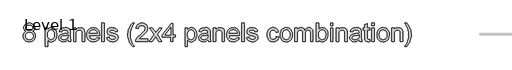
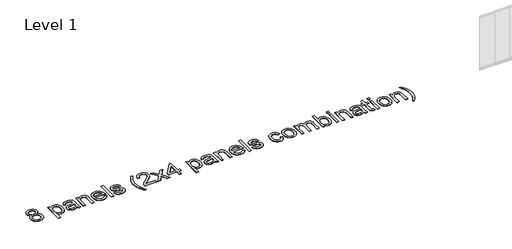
# One storey, part 24 of 69: 1 proxy.
"""IFC4 building model written with IfcOpenShell, lengths in millimetres."""

from ifc_helpers import new_model, si_unit, origin, origin_with_axes, place, context, project, spatial, polyline, outline, extrude, element, save

model = new_model("IFC4")

# Units and contexts
model_context = context("Model", 3, world=origin())
ifc_project = project(units=[si_unit("LENGTHUNIT", "METRE", prefix="MILLI")], contexts=[model_context])

# Site, building, storey
site = spatial("IfcSite", under=ifc_project)
building = spatial("IfcBuilding", under=site)
storey = spatial("IfcBuildingStorey", under=building, Name="Level 1", Elevation=0.0)

# Proxy
placement = place(None, origin())
element("IfcBuildingElementProxy", 1, Name="800mm Arial", ObjectType="800mm Arial", at=placement, inside=storey, context=model_context, shape_type="SweptSolid", body=[
    extrude(outline(polyline([(218665.4723823, -57815.9110834), (218636.728494, -57803.9085431), (218611.9732547, -57789.5640438), (218591.2066644, -57772.8775853), (218574.4287232, -57753.8491678), (218561.4930586, -57732.6617568), (218552.2532982, -57709.4983178), (218546.7094419, -57684.3588508), (218544.8614898, -57657.2433559), (218548.886732, -57616.4908284), (218560.9624585, -57579.1292625), (218581.0886693, -57545.1586582), (218609.2653645, -57514.5790154), (218644.1385989, -57489.3053737), (218684.3544274, -57471.2527725), (218729.9128501, -57460.4212118), (218780.8138669, -57456.8106915), (218831.9588378, -57460.5065957), (218877.8587961, -57471.5943082), (218918.513742, -57490.0738291), (218953.9236753, -57515.9451582), (218982.612674, -57547.1224885), (219003.1048159, -57581.5200124), (219015.4001011, -57619.1377301), (219019.4985295, -57659.9756415), (219017.6749728, -57686.1336167), (219012.2043028, -57710.5473203), (219003.0865194, -57733.2167523), (218990.3216227, -57754.1419127), (218973.848624, -57773.0422543), (218953.606535, -57789.63723), (218929.5953556, -57803.9268397), (218901.8150859, -57815.9110834), (218934.6574026, -57829.8835528), (218963.315907, -57847.6007171), (218987.7905992, -57869.0625765), (219008.081479, -57894.2691308), (219024.0055809, -57922.6592858), (219035.3799395, -57953.671947), (219042.2045546, -57987.3071145), (219044.4794263, -58023.5647882), (219039.966276, -58073.4046048), (219026.4268251, -58119.0972022), (219003.8610736, -58160.6425805), (218972.2690214, -58198.0407395), (218933.3095564, -58228.9497202), (218888.641566, -58251.0275636), (218838.2650505, -58264.2742696), (218782.1800097, -58268.6898383), (218726.0949688, -58264.2559731), (218675.7184533, -58250.9543774), (218631.050463, -58228.7850512), (218592.0909979, -58197.7479946), (218560.4989458, -58160.0875849), (218537.9331942, -58118.0481997), (218524.3937433, -58071.629839), (218519.880593, -58020.8325026), (218522.2469475, -57982.9220401), (218529.346011, -57948.2317712), (218541.1777834, -57916.7616961), (218557.7422648, -57888.5118148), (218578.673524, -57863.9944307), (218603.60563, -57843.7218474), (218632.5385828, -57827.694065), (218665.4723823, -57815.9110834)]), holes=[polyline([(218644.7850771, -57660.1708047), (218646.9989603, -57683.078092), (218653.6406099, -57703.7897926), (218664.7100259, -57722.3059065), (218680.2072082, -57738.6264338), (218699.9369936, -57751.9463261), (218723.704219, -57761.4605348), (218751.5088841, -57767.1690601), (218783.3509892, -57769.0719018), (218814.4063424, -57767.1812578), (218841.6072212, -57761.5093256), (218864.9536258, -57752.0561054), (218884.445556, -57738.8215971), (218899.8146625, -57722.8426055), (218910.7925957, -57705.1559353), (218917.3793556, -57685.7615867), (218919.5749422, -57664.6595596), (218917.3061693, -57642.7341875), (218910.4998508, -57622.6262733), (218899.1559865, -57604.3358168), (218883.2745765, -57587.8628182), (218863.3435289, -57574.2440822), (218839.8507519, -57564.5164137), (218812.7962455, -57558.6798125), (218782.1800097, -57556.7342788), (218751.3259186, -57558.6371206), (218724.1433363, -57564.3456458), (218700.6322627, -57573.8598546), (218680.792698, -57587.1797468), (218665.0393638, -57603.1587385), (218653.7869823, -57620.6502453), (218647.0355534, -57639.6542674), (218644.7850771, -57660.1708047)]), polyline([(218619.8041803, -58017.319564), (218623.9757949, -58055.5471669), (218636.4906387, -58092.5549994), (218646.437866, -58109.7232671), (218659.5930892, -58124.8301229), (218675.9563085, -58137.8755668), (218695.5275238, -58148.8595988), (218738.5610219, -58163.789588), (218782.9606627, -58168.766251), (218819.0902605, -58166.1498436), (218850.9750576, -58158.3006214), (218878.6150538, -58145.2185843), (218902.0102491, -58126.9037325), (218920.6239447, -58104.5514408), (218933.9194415, -58079.3570841), (218941.8967396, -58051.3206626), (218944.555839, -58020.4421761), (218941.8113557, -57989.0696826), (218933.5779058, -57960.5270564), (218919.8554894, -57934.8142974), (218900.6441063, -57911.9314055), (218876.6146304, -57893.1469421), (218848.4379352, -57879.7294682), (218816.1140209, -57871.6789839), (218779.6428873, -57868.9954891), (218744.0438896, -57871.6423908), (218712.5799133, -57879.5830958), (218685.2509586, -57892.8176041), (218662.0570253, -57911.3459158), (218643.5714056, -57933.8506788), (218630.3673916, -57959.0145412), (218622.4449831, -57986.8375029), (218619.8041803, -58017.319564)])]), origin_with_axes(), (0.0, 0.0, 1.0), 5.0),
    extrude(outline(polyline([(219469.1546723, -58481.0274613), (219469.1546723, -57669.1483145), (219569.0782596, -57669.1483145), (219569.0782596, -57767.1202693), (219601.6705234, -57718.7929679), (219619.4303798, -57699.8072424), (219638.1660524, -57684.2734669), (219658.4142402, -57672.1916416), (219680.7116423, -57663.5617663), (219705.0582585, -57658.3838412), (219731.4540889, -57656.6578661), (219766.3029279, -57659.0730114), (219799.0293665, -57666.3184473), (219829.6334046, -57678.3941738), (219858.1150424, -57695.3001909), (219883.8521968, -57716.5973813), (219906.2227851, -57741.8466276), (219925.2268072, -57771.0479298), (219940.8642631, -57804.201288), (219953.0741643, -57840.1723157), (219961.7955224, -57877.8266265), (219967.0283372, -57917.1642204), (219968.7726088, -57958.1850973), (219966.8026796, -58002.0419403), (219960.8928923, -58043.6422082), (219951.0432467, -58082.9859009), (219937.2537429, -58120.0730185), (219919.7134452, -58153.9338435), (219898.6114181, -58183.5986585), (219873.9476615, -58209.0674635), (219845.7221756, -58230.3402584), (219815.3193995, -58247.1181996), (219784.1237728, -58259.1024433), (219752.1352953, -58266.2929896), (219719.353967, -58268.6898383), (219695.7697073, -58267.0858403), (219673.4174156, -58262.2738462), (219652.2970919, -58254.2538562), (219632.4087363, -58243.0258701), (219597.3037456, -58213.9709403), (219569.0782596, -58178.1340873), (219569.0782596, -58481.0274613), (219469.1546723, -58481.0274613)]), holes=[polyline([(219569.0782596, -57967.3577704), (219571.7800509, -58015.5143039), (219579.8854249, -58056.9377051), (219593.3943816, -58091.6279739), (219612.3069209, -58119.5851104), (219635.0739345, -58141.1018594), (219660.1463141, -58156.4709658), (219687.5240597, -58165.6924297), (219717.2071712, -58168.766251), (219747.3172024, -58165.5826504), (219775.1950538, -58156.0318485), (219800.8407255, -58140.1138454), (219824.2542174, -58117.8286411), (219843.7644442, -58088.8590952), (219857.7003205, -58052.8880675), (219866.0618462, -58009.915558), (219868.8490215, -57959.9415666), (219866.1289336, -57912.199755), (219857.9686699, -57870.8495401), (219844.3682305, -57835.8909218), (219825.3276153, -57807.3239001), (219802.505712, -57785.1240797), (219777.5614083, -57769.2670651), (219750.4947042, -57759.7528563), (219721.3055996, -57756.5814534), (219692.2079778, -57759.9541184), (219664.8302323, -57770.0721135), (219639.1723629, -57786.9354386), (219615.2343697, -57810.5440938), (219595.0410716, -57840.5809388), (219580.6172871, -57876.7288332), (219571.9630165, -57918.987777), (219569.0782596, -57967.3577704)])]), origin_with_axes(), (0.0, 0.0, 1.0), 5.0),
    extrude(outline(polyline([(220455.9000968, -58181.2566994), (220408.1582852, -58222.1921924), (220383.7567793, -58237.3539379), (220359.00154, -58248.9783494), (220307.3076725, -58263.7619661), (220251.9544938, -58268.6898383), (220207.4633702, -58265.7257963), (220168.4490155, -58256.8336705), (220134.9114297, -58242.0134607), (220106.8506127, -58221.265167), (220084.6934842, -58195.9061413), (220068.8669639, -58167.2537358), (220059.3710517, -58135.3079502), (220056.2057476, -58100.0687847), (220060.9872474, -58058.6453836), (220075.3317468, -58021.0276659), (220097.458381, -57988.8257286), (220125.5862853, -57963.6496685), (220158.6420619, -57944.621251), (220195.5523127, -57930.8622414), (220282.0096353, -57915.8346707), (220384.1776001, -57900.0264469), (220455.3146071, -57881.4859375), (220455.9000968, -57859.2373263), (220454.1802206, -57835.0126871), (220449.020592, -57814.6425222), (220440.421211, -57798.1268316), (220428.3820777, -57785.4656154), (220407.5727954, -57772.8287945), (220382.2259675, -57763.8024939), (220352.3415939, -57758.3867135), (220317.9196745, -57756.5814534), (220258.3948813, -57761.3873486), (220235.3656171, -57767.3947176), (220216.8251077, -57775.8050342), (220201.590176, -57787.2769743), (220188.4776447, -57802.4692141), (220177.4875138, -57821.3817534), (220168.6197834, -57844.0145923), (220068.6961961, -57831.5241439), (220086.0413305, -57776.8784321), (220097.9157949, -57753.9467495), (220111.9248574, -57733.9425157), (220128.6723043, -57716.4632065), (220148.761922, -57701.1062978), (220172.1937105, -57687.8717895), (220198.9676697, -57676.7596815), (220260.3709093, -57661.68332), (220330.8004494, -57656.6578661), (220398.3513316, -57661.0978302), (220451.8992501, -57674.4177225), (220492.2736487, -57694.4463517), (220520.3039714, -57719.0125266), (220538.8932716, -57749.3848083), (220550.9446027, -57786.8317582), (220554.6039138, -57821.3756546), (220555.8236841, -57874.264897), (220555.8236841, -57998.5838914), (220557.0922453, -58106.8751033), (220560.8979288, -58172.181608), (220568.4117142, -58215.093129), (220580.8045809, -58256.1993899), (220480.8809936, -58256.1993899), (220464.8776066, -58221.4603302), (220455.9000968, -58181.2566994)]), holes=[polyline([(220455.9000968, -57981.4095248), (220388.7639366, -57998.0471924), (220294.695247, -58012.0501561), (220242.855007, -58019.7103139), (220208.7258325, -58028.2487064), (220186.3552443, -58039.3242212), (220169.7907629, -58054.595746), (220159.5446919, -58072.8923013), (220156.1293349, -58093.0429075), (220157.9894847, -58108.5705841), (220163.5699341, -58122.7565133), (220172.870683, -58135.6006951), (220185.8917315, -58147.1031295), (220202.5111026, -58156.5807452), (220222.6068192, -58163.3504706), (220273.2272888, -58168.766251), (220326.8971843, -58162.7893763), (220351.390173, -58155.3182829), (220374.3218556, -58144.8587521), (220412.7690171, -58118.4385262), (220439.5063833, -58086.9928466), (220451.3625511, -58054.595746), (220455.3146071, -58009.708197), (220455.9000968, -57981.4095248)])]), origin_with_axes(), (0.0, 0.0, 1.0), 5.0),
    extrude(outline(polyline([(220693.2186166, -58256.1993899), (220693.2186166, -57669.1483145), (220793.1422039, -57669.1483145), (220793.1422039, -57751.1168822), (220809.6274002, -57728.9780503), (220827.8568682, -57709.7910627), (220847.8306077, -57693.5559193), (220869.5486188, -57680.2726202), (220893.0109016, -57669.9411653), (220918.2174559, -57662.5615546), (220973.8633794, -57656.6578661), (221023.1177062, -57661.4149705), (221068.2248139, -57675.6862836), (221105.8425315, -57697.6909408), (221132.6286885, -57725.6480773), (221150.8032668, -57759.4845069), (221162.5862484, -57799.1270433), (221166.5383043, -57837.0375059), (221167.8556563, -57895.7328553), (221167.8556563, -58256.1993899), (221067.932069, -58256.1993899), (221067.932069, -57909.1991199), (221065.053411, -57857.5296478), (221056.4174369, -57820.7901648), (221040.4872361, -57794.4675206), (221015.7258979, -57774.0485649), (220983.9874733, -57760.9482313), (220947.1260133, -57756.5814534), (220916.7842257, -57759.0331918), (220888.6014317, -57766.3884071), (220862.5776313, -57778.6470991), (220838.7128243, -57795.809268), (220818.7756779, -57819.8265462), (220804.534859, -57852.6505664), (220795.9903677, -57894.2813285), (220793.1422039, -57944.7188326), (220793.1422039, -58256.1993899), (220693.2186166, -58256.1993899)])), origin_with_axes(), (0.0, 0.0, 1.0), 5.0),
    extrude(outline(polyline([(221716.2644069, -58081.3331121), (221814.2363616, -58093.8235605), (221799.2148897, -58133.0635728), (221778.9362076, -58167.6440623), (221753.4003152, -58197.565029), (221722.6072127, -58222.826473), (221686.8740402, -58242.8916953), (221646.5179381, -58257.223997), (221601.5389063, -58265.823378), (221551.9369449, -58268.6898383), (221489.9360179, -58263.7436695), (221434.6926186, -58248.9051632), (221386.2067471, -58224.1743193), (221344.4784034, -58189.5511378), (221310.9225209, -58145.9992374), (221286.9540335, -58094.4822365), (221272.5729411, -58035.0001353), (221267.7792436, -57967.5529336), (221272.6217319, -57897.8186626), (221287.1491968, -57836.3544345), (221311.3616383, -57783.1602494), (221327.0997253, -57759.664423), (221345.2590564, -57738.2361073), (221386.8776208, -57702.5456268), (221434.2535013, -57677.0524264), (221487.3866979, -57661.7565062), (221546.2772105, -57656.6578661), (221603.2709802, -57661.7443085), (221654.8123765, -57677.0036356), (221700.9013993, -57702.4358475), (221741.5380486, -57738.0409441), (221774.7097033, -57782.8675045), (221798.4037424, -57835.964108), (221812.6201659, -57897.3307544), (221817.3589737, -57966.9674439), (221816.7734839, -57993.8999732), (221367.7028309, -57993.8999732), (221373.4906412, -58033.7742661), (221384.9991745, -58068.6962913), (221402.2284307, -58098.6660488), (221425.1784099, -58123.6835388), (221452.5805509, -58143.4072254), (221483.1662925, -58157.4955729), (221516.9356347, -58165.9485815), (221553.8885775, -58168.766251), (221607.0705649, -58163.5456339), (221651.8605322, -58147.8837826), (221671.1085084, -58135.89344), (221688.2584796, -58120.8048807), (221703.3104457, -58102.6181048), (221716.2644069, -58081.3331121)]), holes=[polyline([(221367.7028309, -57893.9763859), (221717.4353864, -57893.9763859), (221712.3001532, -57865.7021092), (221703.9203309, -57841.1847251), (221692.2959194, -57820.4242337), (221677.4269188, -57803.420635), (221650.1772491, -57782.928493), (221619.1706868, -57768.2912488), (221584.4072317, -57759.5089023), (221545.886884, -57756.5814534), (221510.751399, -57758.9173136), (221478.5311651, -57765.9248943), (221449.2261824, -57777.6041954), (221422.8364508, -57793.955217), (221400.6915201, -57814.2217014), (221384.1209398, -57837.6473911), (221373.1247101, -57864.2322859), (221367.7028309, -57893.9763859)])]), origin_with_axes(), (0.0, 0.0, 1.0), 5.0),
    extrude(outline(polyline([(221917.282561, -58256.1993899), (221917.282561, -57456.8106915), (222017.2061483, -57456.8106915), (222017.2061483, -58256.1993899), (221917.282561, -58256.1993899)])), origin_with_axes(), (0.0, 0.0, 1.0), 5.0),
    extrude(outline(polyline([(222129.620184, -58081.3331121), (222229.5437713, -58068.8426637), (222235.5816345, -58091.6279739), (222245.3032042, -58111.5834169), (222258.7084804, -58128.7089926), (222275.797463, -58143.0047012), (222296.618943, -58154.2753792), (222321.221711, -58162.3258635), (222349.6057671, -58167.1561541), (222381.7711113, -58168.766251), (222413.8998624, -58167.2903289), (222441.5886494, -58162.8625625), (222464.8374723, -58155.4829519), (222483.6463311, -58145.151497), (222498.1615983, -58132.8318164), (222508.5296463, -58119.4875288), (222514.7504751, -58105.118634), (222516.8240847, -58089.7251321), (222514.7382774, -58076.234472), (222508.4808555, -58064.2563272), (222498.051819, -58053.7906976), (222483.4511679, -58044.8375832), (222446.0286135, -58032.1519715), (222380.6001317, -58016.3437477), (222289.4101002, -57989.9723127), (222230.129261, -57967.455352), (222192.0480306, -57942.8891771), (222176.9411748, -57927.6237511), (222164.4568252, -57910.3700995), (222147.6971806, -57871.9717288), (222142.1106324, -57829.7676746), (222146.5993873, -57791.0521636), (222160.065652, -57755.3128923), (222181.2896561, -57723.9647942), (222209.0516293, -57698.422803), (222236.6428347, -57682.3462298), (222272.5772693, -57668.8555697), (222314.1226475, -57659.707292), (222358.5466838, -57656.6578661), (222423.584839, -57661.5613429), (222480.1333925, -57676.2717734), (222525.6064313, -57699.3498285), (222543.2199152, -57713.4869669), (222557.4180421, -57729.3561791), (222578.4956738, -57768.5108075), (222591.7667752, -57819.0336955), (222491.8431879, -57831.5241439), (222487.0799847, -57814.8315866), (222479.2307625, -57800.0784642), (222468.2955213, -57787.2647766), (222454.274261, -57776.3905239), (222437.1059933, -57767.7240556), (222416.7297296, -57761.5337211), (222366.353214, -57756.5814534), (222308.9752166, -57761.3141624), (222287.4584676, -57767.2300486), (222270.7232184, -57775.5122893), (222249.2064694, -57796.0044312), (222243.8272821, -57807.4214817), (222242.0342197, -57819.6191852), (222245.0104593, -57834.9882917), (222253.9391783, -57848.6985105), (222269.2107031, -57860.9450048), (222291.2153603, -57870.7519584), (222377.2823564, -57892.0247534), (222465.5693345, -57918.1278389), (222523.9475436, -57939.0590982), (222562.68745, -57961.5516635), (222592.0595201, -57992.3386672), (222602.8605866, -58010.8669788), (222610.575634, -58031.5176909), (222615.2046625, -58054.2908034), (222616.747672, -58079.1863163), (222614.9363131, -58104.1916085), (222609.5022361, -58128.4650385), (222600.4454413, -58152.0066064), (222587.7659284, -58174.816312), (222571.6710586, -58195.9854264), (222552.3681928, -58214.6052209), (222529.857331, -58230.6756953), (222504.1384731, -58244.1968496), (222475.9129871, -58254.9125322), (222445.882241, -58262.5665911), (222414.0462348, -58267.1590265), (222380.4049685, -58268.6898383), (222326.6252936, -58265.737994), (222279.6519374, -58256.8824613), (222239.4848996, -58242.12324), (222206.1241805, -58221.4603302), (222178.8745108, -58194.9913136), (222157.0406215, -58162.8137717), (222140.6225126, -58124.9277045), (222129.620184, -58081.3331121)])), origin_with_axes(), (0.0, 0.0, 1.0), 5.0),
    extrude(outline(polyline([(223241.2700926, -58481.0274613), (223200.932287, -58428.8334879), (223163.8390706, -58372.3703183), (223129.9904433, -58311.6379524), (223099.3864052, -58246.6363903), (223074.0273795, -58178.8903449), (223055.9137898, -58109.9245292), (223045.045636, -58039.7389431), (223041.422918, -57968.3335866), (223044.1308082, -57905.576402), (223052.2544788, -57844.1609647), (223065.7939297, -57784.0872749), (223084.7491609, -57725.3553324), (223113.5601367, -57657.9996135), (223149.2506172, -57590.7902671), (223191.8206025, -57523.7272931), (223241.2700926, -57456.8106915), (223316.2127831, -57456.8106915), (223257.4198521, -57551.8064066), (223222.7295832, -57615.0880925), (223190.8203908, -57690.2259462), (223166.5225654, -57768.4864121), (223147.6405203, -57868.4587902), (223141.3465053, -57968.9190764), (223144.0787909, -58032.9753165), (223152.2756477, -58097.0193589), (223165.9370756, -58161.0512035), (223185.0630748, -58225.0708505), (223209.6536451, -58289.0782997), (223239.7087866, -58353.0735513), (223275.2284992, -58417.0566051), (223316.2127831, -58481.0274613), (223241.2700926, -58481.0274613)])), origin_with_axes(), (0.0, 0.0, 1.0), 5.0),
    extrude(outline(polyline([(223903.2638584, -58156.2758026), (223903.2638584, -58256.1993899), (223378.6650251, -58256.1993899), (223380.8606118, -58221.0212129), (223389.3990042, -58187.3067604), (223414.0383654, -58133.466097), (223450.094777, -58081.2355305), (223502.2521573, -58026.5654233), (223575.1944244, -57965.4061378), (223683.0221235, -57869.6297697), (223720.7618182, -57831.1460151), (223747.718743, -57798.9318801), (223766.5885904, -57770.0477181), (223780.0670528, -57741.5538827), (223788.1541302, -57713.4503737), (223790.8498227, -57685.7371913), (223788.3066015, -57659.6646), (223780.676938, -57635.7022115), (223767.960832, -57613.8500256), (223750.1582837, -57594.1080424), (223728.2573071, -57577.7570209), (223703.245916, -57566.0777197), (223675.1241105, -57559.0701391), (223643.8918906, -57556.7342788), (223610.9885854, -57559.0152494), (223581.5616256, -57565.8581611), (223555.6110113, -57577.2630139), (223533.1367426, -57593.2298078), (223514.9560655, -57613.2218439), (223501.8862262, -57636.7024232), (223493.9272246, -57663.6715457), (223491.0790608, -57694.1292114), (223391.1554735, -57681.6387629), (223399.7487557, -57630.0546747), (223415.3801127, -57584.9841602), (223438.0495448, -57546.4272194), (223467.7570517, -57514.3838522), (223503.8195622, -57489.1955944), (223545.5540048, -57471.2039817), (223592.9603795, -57460.4090141), (223646.0386864, -57456.8106915), (223699.5927038, -57460.8115383), (223747.2552303, -57472.8140786), (223789.026266, -57492.8183124), (223824.905811, -57520.8242396), (223853.7228855, -57554.7582509), (223874.3065102, -57592.5467364), (223886.6566851, -57634.1896962), (223890.77341, -57679.6871304), (223886.3334459, -57727.4777328), (223873.0135537, -57774.4388914), (223849.3744042, -57822.2050984), (223813.9766686, -57872.4108461), (223757.5500921, -57932.3503612), (223670.82442, -58009.3178705), (223555.873262, -58105.4357743), (223530.941156, -58130.7826022), (223510.7905497, -58156.2758026), (223903.2638584, -58156.2758026)])), origin_with_axes(), (0.0, 0.0, 1.0), 5.0),
    extrude(outline(polyline([(223965.7161005, -58256.1993899), (224179.224703, -57961.1125462), (223978.2065489, -57669.1483145), (224098.4271149, -57669.1483145), (224195.4232533, -57809.6658592), (224240.7011288, -57876.0213664), (224279.9289433, -57821.7659811), (224390.3913465, -57669.1483145), (224510.6119124, -57669.1483145), (224299.445269, -57961.1125462), (224502.8053822, -58256.1993899), (224382.5848162, -58256.1993899), (224260.2174544, -58078.7959898), (224237.7736799, -58046.3988892), (224085.9366664, -58256.1993899), (223965.7161005, -58256.1993899)])), origin_with_axes(), (0.0, 0.0, 1.0), 5.0),
    extrude(outline(polyline([(224890.0092829, -58256.1993899), (224890.0092829, -58068.8426637), (224527.786279, -58068.8426637), (224527.786279, -57968.9190764), (224914.9901798, -57469.30114), (224989.9328702, -57469.30114), (224989.9328702, -57968.9190764), (225089.8564575, -57968.9190764), (225089.8564575, -58068.8426637), (224989.9328702, -58068.8426637), (224989.9328702, -58256.1993899), (224890.0092829, -58256.1993899)]), holes=[polyline([(224890.0092829, -57968.9190764), (224890.0092829, -57660.1708047), (224650.7391306, -57968.9190764), (224890.0092829, -57968.9190764)])]), origin_with_axes(), (0.0, 0.0, 1.0), 5.0),
    extrude(outline(polyline([(225514.5317035, -58481.0274613), (225514.5317035, -57669.1483145), (225614.4552908, -57669.1483145), (225614.4552908, -57767.1202693), (225647.0475546, -57718.7929679), (225664.807411, -57699.8072424), (225683.5430836, -57684.2734669), (225703.7912714, -57672.1916416), (225726.0886735, -57663.5617663), (225750.4352897, -57658.3838412), (225776.8311202, -57656.6578661), (225811.6799591, -57659.0730114), (225844.4063977, -57666.3184473), (225875.0104358, -57678.3941738), (225903.4920736, -57695.3001909), (225929.229228, -57716.5973813), (225951.5998163, -57741.8466276), (225970.6038384, -57771.0479298), (225986.2412943, -57804.201288), (225998.4511955, -57840.1723157), (226007.1725536, -57877.8266265), (226012.4053684, -57917.1642204), (226014.14964, -57958.1850973), (226012.1797109, -58002.0419403), (226006.2699235, -58043.6422082), (225996.4202779, -58082.9859009), (225982.6307741, -58120.0730185), (225965.0904764, -58153.9338435), (225943.9884493, -58183.5986585), (225919.3246928, -58209.0674635), (225891.0992068, -58230.3402584), (225860.6964308, -58247.1181996), (225829.500804, -58259.1024433), (225797.5123265, -58266.2929896), (225764.7309983, -58268.6898383), (225741.1467385, -58267.0858403), (225718.7944468, -58262.2738462), (225697.6741231, -58254.2538562), (225677.7857675, -58243.0258701), (225642.6807768, -58213.9709403), (225614.4552908, -58178.1340873), (225614.4552908, -58481.0274613), (225514.5317035, -58481.0274613)]), holes=[polyline([(225614.4552908, -57967.3577704), (225617.1570821, -58015.5143039), (225625.2624561, -58056.9377051), (225638.7714128, -58091.6279739), (225657.6839521, -58119.5851104), (225680.4509657, -58141.1018594), (225705.5233453, -58156.4709658), (225732.9010909, -58165.6924297), (225762.5842024, -58168.766251), (225792.6942336, -58165.5826504), (225820.572085, -58156.0318485), (225846.2177567, -58140.1138454), (225869.6312486, -58117.8286411), (225889.1414754, -58088.8590952), (225903.0773517, -58052.8880675), (225911.4388774, -58009.915558), (225914.2260527, -57959.9415666), (225911.5059648, -57912.199755), (225903.3457011, -57870.8495401), (225889.7452617, -57835.8909218), (225870.7046465, -57807.3239001), (225847.8827432, -57785.1240797), (225822.9384395, -57769.2670651), (225795.8717354, -57759.7528563), (225766.6826308, -57756.5814534), (225737.5850091, -57759.9541184), (225710.2072635, -57770.0721135), (225684.5493941, -57786.9354386), (225660.611401, -57810.5440938), (225640.4181028, -57840.5809388), (225625.9943183, -57876.7288332), (225617.3400477, -57918.987777), (225614.4552908, -57967.3577704)])]), origin_with_axes(), (0.0, 0.0, 1.0), 5.0),
    extrude(outline(polyline([(226501.277128, -58181.2566994), (226453.5353164, -58222.1921924), (226429.1338105, -58237.3539379), (226404.3785712, -58248.9783494), (226352.6847037, -58263.7619661), (226297.3315251, -58268.6898383), (226252.8404014, -58265.7257963), (226213.8260467, -58256.8336705), (226180.2884609, -58242.0134607), (226152.2276439, -58221.265167), (226130.0705154, -58195.9061413), (226114.2439951, -58167.2537358), (226104.7480829, -58135.3079502), (226101.5827789, -58100.0687847), (226106.3642786, -58058.6453836), (226120.708778, -58021.0276659), (226142.8354122, -57988.8257286), (226170.9633165, -57963.6496685), (226204.0190931, -57944.621251), (226240.929344, -57930.8622414), (226327.3866666, -57915.8346707), (226429.5546313, -57900.0264469), (226500.6916383, -57881.4859375), (226501.277128, -57859.2373263), (226499.5572518, -57835.0126871), (226494.3976232, -57814.6425222), (226485.7982423, -57798.1268316), (226473.7591089, -57785.4656154), (226452.9498267, -57772.8287945), (226427.6029987, -57763.8024939), (226397.7186251, -57758.3867135), (226363.2967057, -57756.5814534), (226303.7719125, -57761.3873486), (226280.7426483, -57767.3947176), (226262.2021389, -57775.8050342), (226246.9672072, -57787.2769743), (226233.8546759, -57802.4692141), (226222.864545, -57821.3817534), (226213.9968146, -57844.0145923), (226114.0732273, -57831.5241439), (226131.4183617, -57776.8784321), (226143.2928261, -57753.9467495), (226157.3018886, -57733.9425157), (226174.0493355, -57716.4632065), (226194.1389532, -57701.1062978), (226217.5707417, -57687.8717895), (226244.3447009, -57676.7596815), (226305.7479405, -57661.68332), (226376.1774807, -57656.6578661), (226443.7283628, -57661.0978302), (226497.2762813, -57674.4177225), (226537.6506799, -57694.4463517), (226565.6810027, -57719.0125266), (226584.2703028, -57749.3848083), (226596.3216339, -57786.8317582), (226599.980945, -57821.3756546), (226601.2007153, -57874.264897), (226601.2007153, -57998.5838914), (226602.4692765, -58106.8751033), (226606.27496, -58172.181608), (226613.7887454, -58215.093129), (226626.1816121, -58256.1993899), (226526.2580249, -58256.1993899), (226510.2546378, -58221.4603302), (226501.277128, -58181.2566994)]), holes=[polyline([(226501.277128, -57981.4095248), (226434.1409678, -57998.0471924), (226340.0722782, -58012.0501561), (226288.2320382, -58019.7103139), (226254.1028638, -58028.2487064), (226231.7322755, -58039.3242212), (226215.1677941, -58054.595746), (226204.9217231, -58072.8923013), (226201.5063662, -58093.0429075), (226203.3665159, -58108.5705841), (226208.9469653, -58122.7565133), (226218.2477142, -58135.6006951), (226231.2687628, -58147.1031295), (226247.8881338, -58156.5807452), (226267.9838504, -58163.3504706), (226318.60432, -58168.766251), (226372.2742155, -58162.7893763), (226396.7672042, -58155.3182829), (226419.6988868, -58144.8587521), (226458.1460484, -58118.4385262), (226484.8834145, -58086.9928466), (226496.7395823, -58054.595746), (226500.6916383, -58009.708197), (226501.277128, -57981.4095248)])]), origin_with_axes(), (0.0, 0.0, 1.0), 5.0),
    extrude(outline(polyline([(226738.5956479, -58256.1993899), (226738.5956479, -57669.1483145), (226838.5192351, -57669.1483145), (226838.5192351, -57751.1168822), (226855.0044315, -57728.9780503), (226873.2338994, -57709.7910627), (226893.2076389, -57693.5559193), (226914.92565, -57680.2726202), (226938.3879328, -57669.9411653), (226963.5944871, -57662.5615546), (227019.2404106, -57656.6578661), (227068.4947374, -57661.4149705), (227113.6018451, -57675.6862836), (227151.2195628, -57697.6909408), (227178.0057197, -57725.6480773), (227196.180298, -57759.4845069), (227207.9632796, -57799.1270433), (227211.9153355, -57837.0375059), (227213.2326875, -57895.7328553), (227213.2326875, -58256.1993899), (227113.3091002, -58256.1993899), (227113.3091002, -57909.1991199), (227110.4304422, -57857.5296478), (227101.7944681, -57820.7901648), (227085.8642673, -57794.4675206), (227061.1029291, -57774.0485649), (227029.3645045, -57760.9482313), (226992.5030445, -57756.5814534), (226962.1612569, -57759.0331918), (226933.9784629, -57766.3884071), (226907.9546625, -57778.6470991), (226884.0898555, -57795.809268), (226864.1527091, -57819.8265462), (226849.9118902, -57852.6505664), (226841.3673989, -57894.2813285), (226838.5192351, -57944.7188326), (226838.5192351, -58256.1993899), (226738.5956479, -58256.1993899)])), origin_with_axes(), (0.0, 0.0, 1.0), 5.0),
    extrude(outline(polyline([(227761.6414381, -58081.3331121), (227859.6133928, -58093.8235605), (227844.5919209, -58133.0635728), (227824.3132388, -58167.6440623), (227798.7773465, -58197.565029), (227767.9842439, -58222.826473), (227732.2510714, -58242.8916953), (227691.8949693, -58257.223997), (227646.9159375, -58265.823378), (227597.3139761, -58268.6898383), (227535.3130491, -58263.7436695), (227480.0696498, -58248.9051632), (227431.5837783, -58224.1743193), (227389.8554346, -58189.5511378), (227356.2995522, -58145.9992374), (227332.3310647, -58094.4822365), (227317.9499723, -58035.0001353), (227313.1562748, -57967.5529336), (227317.9987631, -57897.8186626), (227332.526228, -57836.3544345), (227356.7386695, -57783.1602494), (227372.4767565, -57759.664423), (227390.6360876, -57738.2361073), (227432.254652, -57702.5456268), (227479.6305325, -57677.0524264), (227532.7637291, -57661.7565062), (227591.6542417, -57656.6578661), (227648.6480114, -57661.7443085), (227700.1894077, -57677.0036356), (227746.2784305, -57702.4358475), (227786.9150798, -57738.0409441), (227820.0867345, -57782.8675045), (227843.7807736, -57835.964108), (227857.9971971, -57897.3307544), (227862.7360049, -57966.9674439), (227862.1505151, -57993.8999732), (227413.0798621, -57993.8999732), (227418.8676724, -58033.7742661), (227430.3762057, -58068.6962913), (227447.6054619, -58098.6660488), (227470.5554411, -58123.6835388), (227497.9575821, -58143.4072254), (227528.5433237, -58157.4955729), (227562.3126659, -58165.9485815), (227599.2656087, -58168.766251), (227652.4475961, -58163.5456339), (227697.2375634, -58147.8837826), (227716.4855396, -58135.89344), (227733.6355108, -58120.8048807), (227748.6874769, -58102.6181048), (227761.6414381, -58081.3331121)]), holes=[polyline([(227413.0798621, -57893.9763859), (227762.8124176, -57893.9763859), (227757.6771844, -57865.7021092), (227749.2973621, -57841.1847251), (227737.6729506, -57820.4242337), (227722.80395, -57803.420635), (227695.5542804, -57782.928493), (227664.547718, -57768.2912488), (227629.7842629, -57759.5089023), (227591.2639152, -57756.5814534), (227556.1284302, -57758.9173136), (227523.9081963, -57765.9248943), (227494.6032136, -57777.6041954), (227468.213482, -57793.955217), (227446.0685513, -57814.2217014), (227429.497971, -57837.6473911), (227418.5017413, -57864.2322859), (227413.0798621, -57893.9763859)])]), origin_with_axes(), (0.0, 0.0, 1.0), 5.0),
    extrude(outline(polyline([(227962.6595922, -58256.1993899), (227962.6595922, -57456.8106915), (228062.5831795, -57456.8106915), (228062.5831795, -58256.1993899), (227962.6595922, -58256.1993899)])), origin_with_axes(), (0.0, 0.0, 1.0), 5.0),
    extrude(outline(polyline([(228174.9972152, -58081.3331121), (228274.9208025, -58068.8426637), (228280.9586657, -58091.6279739), (228290.6802354, -58111.5834169), (228304.0855116, -58128.7089926), (228321.1744943, -58143.0047012), (228341.9959742, -58154.2753792), (228366.5987422, -58162.3258635), (228394.9827983, -58167.1561541), (228427.1481425, -58168.766251), (228459.2768936, -58167.2903289), (228486.9656806, -58162.8625625), (228510.2145035, -58155.4829519), (228529.0233624, -58145.151497), (228543.5386295, -58132.8318164), (228553.9066775, -58119.4875288), (228560.1275063, -58105.118634), (228562.2011159, -58089.7251321), (228560.1153086, -58076.234472), (228553.8578867, -58064.2563272), (228543.4288502, -58053.7906976), (228528.8281991, -58044.8375832), (228491.4056447, -58032.1519715), (228425.977163, -58016.3437477), (228334.7871314, -57989.9723127), (228275.5062922, -57967.455352), (228237.4250618, -57942.8891771), (228222.318206, -57927.6237511), (228209.8338565, -57910.3700995), (228193.0742118, -57871.9717288), (228187.4876636, -57829.7676746), (228191.9764185, -57791.0521636), (228205.4426832, -57755.3128923), (228226.6666873, -57723.9647942), (228254.4286606, -57698.422803), (228282.0198659, -57682.3462298), (228317.9543005, -57668.8555697), (228359.4996787, -57659.707292), (228403.923715, -57656.6578661), (228468.9618702, -57661.5613429), (228525.5104237, -57676.2717734), (228570.9834625, -57699.3498285), (228588.5969464, -57713.4869669), (228602.7950733, -57729.3561791), (228623.872705, -57768.5108075), (228637.1438064, -57819.0336955), (228537.2202191, -57831.5241439), (228532.4570159, -57814.8315866), (228524.6077937, -57800.0784642), (228513.6725525, -57787.2647766), (228499.6512923, -57776.3905239), (228482.4830245, -57767.7240556), (228462.1067608, -57761.5337211), (228411.7302452, -57756.5814534), (228354.3522478, -57761.3141624), (228332.8354988, -57767.2300486), (228316.1002496, -57775.5122893), (228294.5835006, -57796.0044312), (228289.2043133, -57807.4214817), (228287.4112509, -57819.6191852), (228290.3874906, -57834.9882917), (228299.3162095, -57848.6985105), (228314.5877343, -57860.9450048), (228336.5923915, -57870.7519584), (228422.6593876, -57892.0247534), (228510.9463657, -57918.1278389), (228569.3245748, -57939.0590982), (228608.0644812, -57961.5516635), (228637.4365513, -57992.3386672), (228648.2376178, -58010.8669788), (228655.9526653, -58031.5176909), (228660.5816937, -58054.2908034), (228662.1247032, -58079.1863163), (228660.3133443, -58104.1916085), (228654.8792673, -58128.4650385), (228645.8224725, -58152.0066064), (228633.1429597, -58174.816312), (228617.0480899, -58195.9854264), (228597.745224, -58214.6052209), (228575.2343622, -58230.6756953), (228549.5155043, -58244.1968496), (228521.2900183, -58254.9125322), (228491.2592722, -58262.5665911), (228459.423266, -58267.1590265), (228425.7819997, -58268.6898383), (228372.0023248, -58265.737994), (228325.0289686, -58256.8824613), (228284.8619309, -58242.12324), (228251.5012117, -58221.4603302), (228224.251542, -58194.9913136), (228202.4176527, -58162.8137717), (228185.9995438, -58124.9277045), (228174.9972152, -58081.3331121)])), origin_with_axes(), (0.0, 0.0, 1.0), 5.0),
    extrude(outline(polyline([(229461.5134016, -58043.8617669), (229561.4369889, -58056.3522153), (229550.568835, -58103.5024383), (229533.577434, -58145.2246832), (229510.4627858, -58181.51895), (229481.2248905, -58212.3852388), (229447.095716, -58237.0185011), (229409.3072305, -58254.6136884), (229367.8594339, -58265.1708008), (229322.7523263, -58268.6898383), (229266.7099774, -58263.7802626), (229216.4615377, -58249.0515356), (229172.0070072, -58224.5036573), (229133.3463859, -58190.1366276), (229102.0531775, -58146.5969248), (229079.7008858, -58094.5310273), (229066.2895108, -58033.9389351), (229061.8190524, -57964.820648), (229063.727993, -57918.8779977), (229069.4548148, -57875.8993893), (229078.9995178, -57835.8848229), (229092.362102, -57798.8342984), (229109.6340502, -57765.4918758), (229130.9068452, -57736.601615), (229156.1804869, -57712.163516), (229185.4549754, -57692.1775788), (229217.4068597, -57676.6377045), (229250.7126892, -57665.5377943), (229285.3724638, -57658.8778482), (229321.3861835, -57656.6578661), (229365.7187369, -57659.707292), (229405.8186873, -57668.8555697), (229441.6860345, -57684.1026991), (229473.3207786, -57705.4486802), (229500.1862206, -57732.405605), (229521.7456616, -57764.4855653), (229537.9991015, -57801.6885611), (229548.9465405, -57844.0145923), (229449.0229532, -57856.5050407), (229441.2225218, -57833.164735), (229430.8971657, -57812.9104483), (229418.0468851, -57795.7421806), (229402.6716798, -57781.6599319), (229385.1618764, -57770.6880975), (229365.9078013, -57762.851073), (229344.9094547, -57758.1488583), (229322.1668365, -57756.5814534), (229288.2145287, -57759.6674724), (229257.592194, -57768.9255294), (229230.2998324, -57784.3556243), (229206.3374438, -57805.9577573), (229186.827217, -57834.2320341), (229172.8913407, -57869.6785605), (229164.529815, -57912.2973366), (229161.7426397, -57962.0883624), (229164.4688264, -58012.629547), (229172.6473867, -58055.7423301), (229186.2783203, -58091.4267118), (229205.3616275, -58119.682692), (229228.8483057, -58141.1567491), (229255.6893523, -58156.4953613), (229285.8847673, -58165.6985286), (229319.4345509, -58168.766251), (229346.4707608, -58166.8512115), (229371.1772093, -58161.1060932), (229393.5538964, -58151.5308959), (229413.6008221, -58138.1256197), (229430.7568921, -58120.7438922), (229444.461012, -58099.2393409), (229454.7131819, -58073.6119658), (229461.5134016, -58043.8617669)])), origin_with_axes(), (0.0, 0.0, 1.0), 5.0),
    extrude(outline(polyline([(229623.8892309, -57962.6738522), (229629.2928136, -57886.6455661), (229636.0472919, -57852.5743307), (229645.5035616, -57821.1317005), (229657.6616226, -57792.3176753), (229672.5214749, -57766.1322553), (229690.0831185, -57742.5754403), (229710.3465535, -57721.6472305), (229748.4277839, -57693.2143836), (229790.4610703, -57672.9052072), (229836.4464126, -57660.7197014), (229886.3838108, -57656.6578661), (229941.5113319, -57661.6040349), (229991.3572474, -57676.4425412), (230035.9215572, -57701.1733851), (230075.2042614, -57735.7965666), (230107.2659251, -57779.1411061), (230130.1671135, -57830.0360241), (230143.9078265, -57888.4813205), (230148.4880642, -57954.4769954), (230146.4632454, -58007.9639254), (230140.3887891, -58055.4251898), (230130.2646951, -58096.8607887), (230116.0909636, -58132.270722), (230098.0444613, -58162.8564636), (230076.3020547, -58189.8194873), (230050.863744, -58213.159793), (230021.7295292, -58232.8773807), (229990.0337966, -58248.5453309), (229956.9109326, -58259.7367239), (229922.3609374, -58266.4515597), (229886.3838108, -58268.6898383), (229830.4512413, -58263.7619661), (229780.1418131, -58248.9783494), (229735.4555262, -58224.3389883), (229696.3923807, -58189.8438827), (229664.6722527, -58146.0785224), (229642.0150184, -58093.6283973), (229628.4206778, -58032.4935072), (229623.8892309, -57962.6738522)]), holes=[polyline([(229723.8128182, -57962.478689), (229726.703674, -58010.9462639), (229735.3762412, -58052.9124629), (229749.8305198, -58088.3772859), (229770.06651, -58117.3407329), (229794.6814757, -58139.8393971), (229822.2726811, -58155.9098715), (229852.8401261, -58165.5521561), (229886.3838108, -58168.766251), (229919.7567277, -58165.5338596), (229950.2021957, -58155.8366853), (229977.7202148, -58139.6747281), (230002.3107852, -58117.047988), (230022.5467753, -58087.797895), (230037.001054, -58051.7658788), (230045.6736212, -58008.9519394), (230048.5644769, -57959.3560769), (230045.6553246, -57912.4254125), (230036.9278678, -57871.5570069), (230022.3821063, -57836.7508598), (230002.0180403, -57808.0069715), (229977.3359872, -57785.5083073), (229949.8362646, -57769.4378329), (229919.5188725, -57759.7955483), (229886.3838108, -57756.5814534), (229852.8401261, -57759.7833506), (229822.2726811, -57769.3890421), (229794.6814757, -57785.398528), (229770.06651, -57807.8118082), (229749.8305198, -57836.6898713), (229735.3762412, -57872.0937058), (229726.703674, -57914.0233117), (229723.8128182, -57962.478689)])]), origin_with_axes(), (0.0, 0.0, 1.0), 5.0),
    extrude(outline(polyline([(230260.9020999, -58256.1993899), (230260.9020999, -57669.1483145), (230360.8256872, -57669.1483145), (230360.8256872, -57765.7541265), (230390.8808287, -57721.378881), (230409.1285932, -57702.7956797), (230429.5231535, -57686.615426), (230451.7351716, -57673.5089935), (230475.4353096, -57664.1472561), (230500.6235673, -57658.5302136), (230527.299945, -57656.6578661), (230556.4646541, -57658.5668067), (230582.8726822, -57664.2936285), (230606.5240294, -57673.8383315), (230627.4186955, -57687.2009158), (230645.4956921, -57704.0032524), (230660.6940307, -57723.8672126), (230673.0137113, -57746.7927963), (230682.4547338, -57772.7800037), (230718.8770765, -57721.9765685), (230739.0093862, -57702.0180761), (230760.4224548, -57685.6884005), (230783.1162822, -57672.9875417), (230807.0908685, -57663.9154997), (230832.3462136, -57658.4722745), (230858.8823176, -57656.6578661), (230898.8846863, -57659.6767977), (230933.9957759, -57668.7335926), (230964.2155864, -57683.8282507), (230989.5441178, -57704.9607721), (231009.5666481, -57732.3751108), (231023.8684555, -57766.3152208), (231032.44954, -57806.7811023), (231035.3099014, -57853.7727551), (231035.3099014, -58256.1993899), (230935.3863141, -58256.1993899), (230935.3863141, -57896.7086715), (230933.0687505, -57846.8688549), (230926.1160595, -57813.2763794), (230913.0889121, -57790.2715106), (230892.5479794, -57772.1945139), (230866.1277535, -57760.4847185), (230835.4627269, -57756.5814534), (230807.1457581, -57759.0819826), (230781.3293186, -57766.5835703), (230758.0134083, -57779.0862164), (230737.1980272, -57796.589921), (230720.0785503, -57819.6069875), (230707.8503526, -57848.6497196), (230700.5134339, -57883.7181173), (230698.0677943, -57924.8121805), (230698.0677943, -58256.1993899), (230598.144207, -58256.1993899), (230598.144207, -57885.5843659), (230596.6987792, -57855.3096658), (230592.3624956, -57829.0846032), (230585.1353562, -57806.9091782), (230575.0173611, -57788.7833907), (230561.6059861, -57774.6950432), (230544.4987069, -57764.6319377), (230523.6955236, -57758.5940745), (230499.196436, -57756.5814534), (230460.7004837, -57761.948443), (230425.2295618, -57778.0494116), (230409.4213381, -57790.0275565), (230395.9550734, -57804.4940329), (230384.8307678, -57821.4488408), (230376.0484212, -57840.8919802), (230364.6313707, -57891.3904728), (230360.8256872, -57960.1367299), (230360.8256872, -58256.1993899), (230260.9020999, -58256.1993899)])), origin_with_axes(), (0.0, 0.0, 1.0), 5.0),
    extrude(outline(polyline([(231285.1188697, -58256.1993899), (231185.1952824, -58256.1993899), (231185.1952824, -57456.8106915), (231285.1188697, -57456.8106915), (231285.1188697, -57753.2636781), (231317.979483, -57710.9986353), (231355.0848971, -57680.8093191), (231375.2294045, -57670.2430584), (231396.4351121, -57662.6957294), (231442.0301278, -57656.6578661), (231493.5044367, -57662.0980419), (231542.1488784, -57678.4185692), (231585.1823764, -57704.594841), (231619.8238545, -57739.6022501), (231646.9759425, -57783.0992609), (231667.5412706, -57834.7443376), (231680.4952318, -57892.3906845), (231684.8132188, -57953.8915057), (231680.3427605, -58024.8577448), (231666.9313855, -58087.2855914), (231644.5790938, -58141.1750456), (231613.2858854, -58186.5261073), (231575.7230574, -58222.4727396), (231534.5619068, -58248.1489056), (231489.8024337, -58263.5546051), (231441.4446381, -58268.6898383), (231417.2291471, -58267.034), (231394.3493048, -58262.0664853), (231372.8051109, -58253.787294), (231352.5965656, -58242.1964262), (231333.7236688, -58227.2938819), (231316.1864206, -58209.0796612), (231285.1188697, -58162.7161901), (231285.1188697, -58256.1993899)]), holes=[polyline([(231285.1188697, -57958.5754238), (231286.8265482, -58003.6093452), (231291.9495836, -58041.9101343), (231300.4879761, -58073.477791), (231312.4417256, -58098.3123154), (231336.6541671, -58129.1359122), (231364.7942691, -58151.1527671), (231396.8620317, -58164.36288), (231432.8574548, -58168.766251), (231462.7418284, -58165.5216619), (231490.5281971, -58155.7878944), (231516.2165607, -58139.5649488), (231539.8069193, -58116.8528248), (231559.5306059, -58087.7125111), (231573.6189535, -58052.2049961), (231582.071962, -58010.3302799), (231584.8896316, -57962.0883624), (231582.1878402, -57912.9316172), (231574.0824662, -57870.6543768), (231560.5735096, -57835.2566412), (231541.6609703, -57806.7384103), (231518.918352, -57784.7947417), (231493.9191586, -57769.1206926), (231466.6633901, -57759.7162632), (231437.1510464, -57756.5814534), (231407.2666728, -57759.8260426), (231379.4803042, -57769.55981), (231353.7919405, -57785.7827557), (231330.2015819, -57808.4948796), (231310.4778953, -57837.3424485), (231296.3895477, -57871.9717288), (231287.9365392, -57912.3827206), (231285.1188697, -57958.5754238)])]), origin_with_axes(), (0.0, 0.0, 1.0), 5.0),
    extrude(outline(polyline([(231797.2272545, -57556.7342788), (231797.2272545, -57456.8106915), (231897.1508418, -57456.8106915), (231897.1508418, -57556.7342788), (231797.2272545, -57556.7342788)])), origin_with_axes(), (0.0, 0.0, 1.0), 5.0),
    extrude(outline(polyline([(231797.2272545, -58256.1993899), (231797.2272545, -57669.1483145), (231897.1508418, -57669.1483145), (231897.1508418, -58256.1993899), (231797.2272545, -58256.1993899)])), origin_with_axes(), (0.0, 0.0, 1.0), 5.0),
    extrude(outline(polyline([(232047.0362228, -58256.1993899), (232047.0362228, -57669.1483145), (232146.9598101, -57669.1483145), (232146.9598101, -57751.1168822), (232163.4450064, -57728.9780503), (232181.6744743, -57709.7910627), (232201.6482138, -57693.5559193), (232223.366225, -57680.2726202), (232246.8285077, -57669.9411653), (232272.035062, -57662.5615546), (232327.6809855, -57656.6578661), (232376.9353124, -57661.4149705), (232422.04242, -57675.6862836), (232459.6601377, -57697.6909408), (232486.4462946, -57725.6480773), (232504.6208729, -57759.4845069), (232516.4038545, -57799.1270433), (232520.3559104, -57837.0375059), (232521.6732624, -57895.7328553), (232521.6732624, -58256.1993899), (232421.7496751, -58256.1993899), (232421.7496751, -57909.1991199), (232418.8710171, -57857.5296478), (232410.235043, -57820.7901648), (232394.3048422, -57794.4675206), (232369.543504, -57774.0485649), (232337.8050795, -57760.9482313), (232300.9436194, -57756.5814534), (232270.6018319, -57759.0331918), (232242.4190379, -57766.3884071), (232216.3952374, -57778.6470991), (232192.5304304, -57795.809268), (232172.593284, -57819.8265462), (232158.3524652, -57852.6505664), (232149.8079738, -57894.2813285), (232146.9598101, -57944.7188326), (232146.9598101, -58256.1993899), (232047.0362228, -58256.1993899)])), origin_with_axes(), (0.0, 0.0, 1.0), 5.0),
    extrude(outline(polyline([(233033.7816473, -58181.2566994), (232986.0398357, -58222.1921924), (232961.6383298, -58237.3539379), (232936.8830905, -58248.9783494), (232885.1892229, -58263.7619661), (232829.8360443, -58268.6898383), (232785.3449207, -58265.7257963), (232746.330566, -58256.8336705), (232712.7929801, -58242.0134607), (232684.7321632, -58221.265167), (232662.5750347, -58195.9061413), (232646.7485144, -58167.2537358), (232637.2526022, -58135.3079502), (232634.0872981, -58100.0687847), (232638.8687979, -58058.6453836), (232653.2132973, -58021.0276659), (232675.3399315, -57988.8257286), (232703.4678358, -57963.6496685), (232736.5236123, -57944.621251), (232773.4338632, -57930.8622414), (232859.8911858, -57915.8346707), (232962.0591506, -57900.0264469), (233033.1961575, -57881.4859375), (233033.7816473, -57859.2373263), (233032.0617711, -57835.0126871), (233026.9021425, -57814.6425222), (233018.3027615, -57798.1268316), (233006.2636281, -57785.4656154), (232985.4543459, -57772.8287945), (232960.107518, -57763.8024939), (232930.2231444, -57758.3867135), (232895.801225, -57756.5814534), (232836.2764318, -57761.3873486), (232813.2471675, -57767.3947176), (232794.7066582, -57775.8050342), (232779.4717265, -57787.2769743), (232766.3591952, -57802.4692141), (232755.3690643, -57821.3817534), (232746.5013338, -57844.0145923), (232646.5777465, -57831.5241439), (232663.922881, -57776.8784321), (232675.7973453, -57753.9467495), (232689.8064078, -57733.9425157), (232706.5538548, -57716.4632065), (232726.6434725, -57701.1062978), (232750.075261, -57687.8717895), (232776.8492202, -57676.7596815), (232838.2524598, -57661.68332), (232908.6819999, -57656.6578661), (232976.2328821, -57661.0978302), (233029.7808005, -57674.4177225), (233070.1551992, -57694.4463517), (233098.1855219, -57719.0125266), (233116.7748221, -57749.3848083), (233128.8261532, -57786.8317582), (233132.4854642, -57821.3756546), (233133.7052346, -57874.264897), (233133.7052346, -57998.5838914), (233134.9737958, -58106.8751033), (233138.7794793, -58172.181608), (233146.2932646, -58215.093129), (233158.6861314, -58256.1993899), (233058.7625441, -58256.1993899), (233042.7591571, -58221.4603302), (233033.7816473, -58181.2566994)]), holes=[polyline([(233033.7816473, -57981.4095248), (232966.6454871, -57998.0471924), (232872.5767975, -58012.0501561), (232820.7365575, -58019.7103139), (232786.607383, -58028.2487064), (232764.2367948, -58039.3242212), (232747.6723134, -58054.595746), (232737.4262424, -58072.8923013), (232734.0108854, -58093.0429075), (232735.8710352, -58108.5705841), (232741.4514846, -58122.7565133), (232750.7522335, -58135.6006951), (232763.773282, -58147.1031295), (232780.3926531, -58156.5807452), (232800.4883696, -58163.3504706), (232851.1088393, -58168.766251), (232904.7787348, -58162.7893763), (232929.2717235, -58155.3182829), (232952.2034061, -58144.8587521), (232990.6505676, -58118.4385262), (233017.3879338, -58086.9928466), (233029.2441016, -58054.595746), (233033.1961575, -58009.708197), (233033.7816473, -57981.4095248)])]), origin_with_axes(), (0.0, 0.0, 1.0), 5.0),
    extrude(outline(polyline([(233483.4377901, -58172.8646794), (233495.9282385, -58259.1268387), (233456.3588883, -58266.2990884), (233421.1807113, -58268.6898383), (233373.219341, -58264.5426191), (233337.4556743, -58252.1009615), (233312.1820326, -58232.9261716), (233295.6907374, -58208.5795553), (233286.615646, -58166.7658276), (233283.5906155, -58095.1897033), (233283.5906155, -57769.0719018), (233208.6479251, -57769.0719018), (233208.6479251, -57669.1483145), (233283.5906155, -57669.1483145), (233283.5906155, -57526.4839741), (233383.5142028, -57467.7398339), (233383.5142028, -57669.1483145), (233483.4377901, -57669.1483145), (233483.4377901, -57769.0719018), (233383.5142028, -57769.0719018), (233383.5142028, -58092.2622545), (233384.8315548, -58125.1472632), (233388.7836107, -58143.7853542), (233395.6875109, -58154.1046114), (233405.8603957, -58162.0331187), (233420.2780813, -58167.0829679), (233439.9163839, -58168.766251), (233483.4377901, -58172.8646794)])), origin_with_axes(), (0.0, 0.0, 1.0), 5.0),
    extrude(outline(polyline([(233583.3613774, -57556.7342788), (233583.3613774, -57456.8106915), (233683.2849647, -57456.8106915), (233683.2849647, -57556.7342788), (233583.3613774, -57556.7342788)])), origin_with_axes(), (0.0, 0.0, 1.0), 5.0),
    extrude(outline(polyline([(233583.3613774, -58256.1993899), (233583.3613774, -57669.1483145), (233683.2849647, -57669.1483145), (233683.2849647, -58256.1993899), (233583.3613774, -58256.1993899)])), origin_with_axes(), (0.0, 0.0, 1.0), 5.0),
    extrude(outline(polyline([(233808.1894488, -57962.6738522), (233813.5930315, -57886.6455661), (233820.3475098, -57852.5743307), (233829.8037795, -57821.1317005), (233841.9618405, -57792.3176753), (233856.8216928, -57766.1322553), (233874.3833364, -57742.5754403), (233894.6467714, -57721.6472305), (233932.7280018, -57693.2143836), (233974.7612882, -57672.9052072), (234020.7466305, -57660.7197014), (234070.6840287, -57656.6578661), (234125.8115498, -57661.6040349), (234175.6574653, -57676.4425412), (234220.2217751, -57701.1733851), (234259.5044793, -57735.7965666), (234291.566143, -57779.1411061), (234314.4673314, -57830.0360241), (234328.2080444, -57888.4813205), (234332.7882821, -57954.4769954), (234330.7634633, -58007.9639254), (234324.689007, -58055.4251898), (234314.564913, -58096.8607887), (234300.3911815, -58132.270722), (234282.3446792, -58162.8564636), (234260.6022726, -58189.8194873), (234235.1639619, -58213.159793), (234206.029747, -58232.8773807), (234174.3340144, -58248.5453309), (234141.2111505, -58259.7367239), (234106.6611553, -58266.4515597), (234070.6840287, -58268.6898383), (234014.7514592, -58263.7619661), (233964.442031, -58248.9783494), (233919.7557441, -58224.3389883), (233880.6925986, -58189.8438827), (233848.9724706, -58146.0785224), (233826.3152363, -58093.6283973), (233812.7208957, -58032.4935072), (233808.1894488, -57962.6738522)]), holes=[polyline([(233908.1130361, -57962.478689), (233911.0038918, -58010.9462639), (233919.6764591, -58052.9124629), (233934.1307377, -58088.3772859), (233954.3667279, -58117.3407329), (233978.9816936, -58139.8393971), (234006.572899, -58155.9098715), (234037.140344, -58165.5521561), (234070.6840287, -58168.766251), (234104.0569456, -58165.5338596), (234134.5024136, -58155.8366853), (234162.0204327, -58139.6747281), (234186.611003, -58117.047988), (234206.8469932, -58087.797895), (234221.3012719, -58051.7658788), (234229.9738391, -58008.9519394), (234232.8646948, -57959.3560769), (234229.9555425, -57912.4254125), (234221.2280856, -57871.5570069), (234206.6823242, -57836.7508598), (234186.3182581, -57808.0069715), (234161.6362051, -57785.5083073), (234134.1364825, -57769.4378329), (234103.8190903, -57759.7955483), (234070.6840287, -57756.5814534), (234037.140344, -57759.7833506), (234006.572899, -57769.3890421), (233978.9816936, -57785.398528), (233954.3667279, -57807.8118082), (233934.1307377, -57836.6898713), (233919.6764591, -57872.0937058), (233911.0038918, -57914.0233117), (233908.1130361, -57962.478689)])]), origin_with_axes(), (0.0, 0.0, 1.0), 5.0),
    extrude(outline(polyline([(234445.2023178, -58256.1993899), (234445.2023178, -57669.1483145), (234545.1259051, -57669.1483145), (234545.1259051, -57751.1168822), (234561.6111014, -57728.9780503), (234579.8405693, -57709.7910627), (234599.8143089, -57693.5559193), (234621.53232, -57680.2726202), (234644.9946027, -57669.9411653), (234670.2011571, -57662.5615546), (234725.8470806, -57656.6578661), (234775.1014074, -57661.4149705), (234820.208515, -57675.6862836), (234857.8262327, -57697.6909408), (234884.6123897, -57725.6480773), (234902.7869679, -57759.4845069), (234914.5699495, -57799.1270433), (234918.5220055, -57837.0375059), (234919.8393574, -57895.7328553), (234919.8393574, -58256.1993899), (234819.9157702, -58256.1993899), (234819.9157702, -57909.1991199), (234817.0371121, -57857.5296478), (234808.401138, -57820.7901648), (234792.4709372, -57794.4675206), (234767.7095991, -57774.0485649), (234735.9711745, -57760.9482313), (234699.1097144, -57756.5814534), (234668.7679269, -57759.0331918), (234640.5851329, -57766.3884071), (234614.5613324, -57778.6470991), (234590.6965255, -57795.809268), (234570.7593791, -57819.8265462), (234556.5185602, -57852.6505664), (234547.9740689, -57894.2813285), (234545.1259051, -57944.7188326), (234545.1259051, -58256.1993899), (234445.2023178, -58256.1993899)])), origin_with_axes(), (0.0, 0.0, 1.0), 5.0),
    extrude(outline(polyline([(235082.2151868, -58481.0274613), (235007.2724963, -58481.0274613), (235048.2567802, -58417.0566051), (235083.7764928, -58353.0735513), (235113.8316343, -58289.0782997), (235138.4222046, -58225.0708505), (235157.5482038, -58161.0512035), (235171.2096317, -58097.0193589), (235179.4064885, -58032.9753165), (235182.1387741, -57968.9190764), (235175.8447591, -57869.1906524), (235156.962714, -57770.2428814), (235133.1040059, -57691.8360431), (235101.3411859, -57616.6493986), (235066.5045447, -57552.6846413), (235007.2724963, -57456.8106915), (235082.2151868, -57456.8106915), (235131.6646769, -57523.7272931), (235174.2346622, -57590.7902671), (235209.9251427, -57657.9996135), (235238.7361185, -57725.3553324), (235257.6913497, -57784.0872749), (235271.2308007, -57844.1609647), (235279.3544712, -57905.576402), (235282.0623614, -57968.3335866), (235278.4213469, -58039.7389431), (235267.4983034, -58109.9245292), (235249.2932309, -58178.8903449), (235223.8061293, -58246.6363903), (235193.1106084, -58311.6379524), (235159.2802777, -58372.3703183), (235122.3151371, -58428.8334879), (235082.2151868, -58481.0274613)])), origin_with_axes(), (0.0, 0.0, 1.0), 5.0),
])

save(model, "model.ifc")
